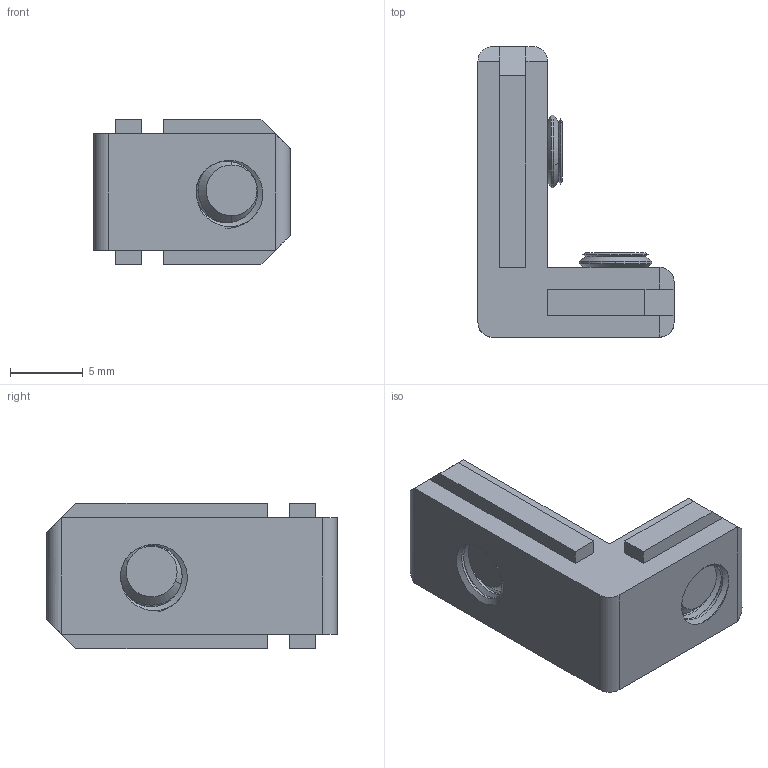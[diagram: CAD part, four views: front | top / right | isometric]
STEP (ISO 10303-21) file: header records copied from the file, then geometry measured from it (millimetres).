
FILE_DESCRIPTION (( 'STEP AP214' ), '1' );
FILE_NAME ('6-6.STEP', '2019-01-13T11:51:18', ( '' ), ( '' ), 'SwSTEP 2.0', 'SolidWorks 2018', '' );
FILE_SCHEMA (( 'AUTOMOTIVE_DESIGN' ));
Length unit declared in the file: millimetre
Products named in the file (3): 6-6-M4; socket set screw flat point_din_DIN 913 - M5 x 5-S; 6-6
Assembly tree (3 placements, depth 2):
  6-6
    6-6-M4
    socket set screw flat point_din_DIN 913 - M5 x 5-S  x2
Bounding box: 13.5 x 20 x 10 mm (x, y, z)
Volume: 1143.9 mm3; surface area: 1338.9 mm2
Topology: 3 solids, 3 shells, 169 faces, 443 edges, 282 vertices
Faces by surface type: cone 56, plane 54, cylinder 53, bspline 6
Entity records: 7939 total; most frequent: CARTESIAN_POINT 4961, ORIENTED_EDGE 646, DIRECTION 557, EDGE_CURVE 323, VERTEX_POINT 206, AXIS2_PLACEMENT_3D 192, LINE 173, VECTOR 173
